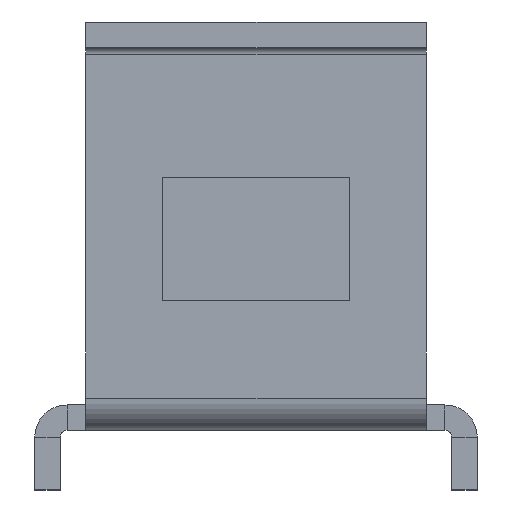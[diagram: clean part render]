
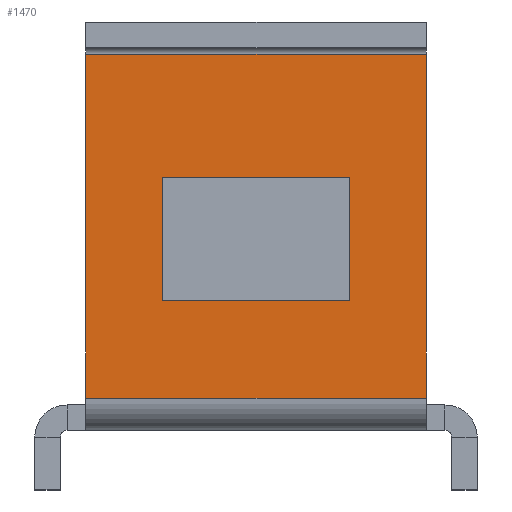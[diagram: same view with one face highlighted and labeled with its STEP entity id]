
A CAD part, left-side view. The second image highlights one B-rep face of the part: STEP entity #1470.
In plain terms, the highlighted planar face has unit normal (-1, 0, 0).
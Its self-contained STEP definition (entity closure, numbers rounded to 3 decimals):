
#22=FACE_BOUND('',#258,.T.);
#162=FACE_OUTER_BOUND('',#257,.T.);
#257=EDGE_LOOP('',(#1252,#1253,#1254,#1255));
#258=EDGE_LOOP('',(#1256,#1257,#1258,#1259));
#276=LINE('',#2047,#436);
#280=LINE('',#2055,#440);
#283=LINE('',#2061,#443);
#286=LINE('',#2066,#446);
#414=LINE('',#2401,#574);
#415=LINE('',#2403,#575);
#416=LINE('',#2405,#576);
#417=LINE('',#2406,#577);
#436=VECTOR('',#1623,14.5);
#440=VECTOR('',#1629,22.);
#443=VECTOR('',#1634,14.5);
#446=VECTOR('',#1639,22.);
#574=VECTOR('',#1981,40.);
#575=VECTOR('',#1982,40.4);
#576=VECTOR('',#1983,40.);
#577=VECTOR('',#1984,40.4);
#596=VERTEX_POINT('',#2045);
#597=VERTEX_POINT('',#2046);
#600=VERTEX_POINT('',#2054);
#602=VERTEX_POINT('',#2060);
#702=VERTEX_POINT('',#2395);
#703=VERTEX_POINT('',#2400);
#704=VERTEX_POINT('',#2402);
#705=VERTEX_POINT('',#2404);
#716=EDGE_CURVE('',#596,#597,#276,.T.);
#720=EDGE_CURVE('',#600,#596,#280,.T.);
#723=EDGE_CURVE('',#602,#600,#283,.T.);
#726=EDGE_CURVE('',#597,#602,#286,.T.);
#893=EDGE_CURVE('',#703,#702,#414,.T.);
#894=EDGE_CURVE('',#704,#703,#415,.T.);
#895=EDGE_CURVE('',#704,#705,#416,.T.);
#896=EDGE_CURVE('',#702,#705,#417,.T.);
#1252=ORIENTED_EDGE('',*,*,#893,.F.);
#1253=ORIENTED_EDGE('',*,*,#894,.F.);
#1254=ORIENTED_EDGE('',*,*,#895,.T.);
#1255=ORIENTED_EDGE('',*,*,#896,.F.);
#1256=ORIENTED_EDGE('',*,*,#716,.T.);
#1257=ORIENTED_EDGE('',*,*,#726,.T.);
#1258=ORIENTED_EDGE('',*,*,#723,.T.);
#1259=ORIENTED_EDGE('',*,*,#720,.T.);
#1380=PLANE('',#1598);
#1470=ADVANCED_FACE('',(#162,#22),#1380,.F.);
#1598=AXIS2_PLACEMENT_3D('',#2399,#1979,#1980);
#1623=DIRECTION('',(0.,0.,1.));
#1629=DIRECTION('',(0.,1.,0.));
#1634=DIRECTION('',(0.,0.,-1.));
#1639=DIRECTION('',(0.,-1.,0.));
#1979=DIRECTION('center_axis',(1.,0.,0.));
#1980=DIRECTION('ref_axis',(0.,0.,-1.));
#1981=DIRECTION('',(0.,1.,0.));
#1982=DIRECTION('',(0.,0.,-1.));
#1983=DIRECTION('',(0.,1.,0.));
#1984=DIRECTION('',(0.,0.,1.));
#2045=CARTESIAN_POINT('',(-60.,11.,-32.75));
#2046=CARTESIAN_POINT('',(-60.,11.,-18.25));
#2047=CARTESIAN_POINT('',(-60.,11.,-67.75));
#2054=CARTESIAN_POINT('',(-60.,-11.,-32.75));
#2055=CARTESIAN_POINT('',(-60.,-5.5,-32.75));
#2060=CARTESIAN_POINT('',(-60.,-11.,-18.25));
#2061=CARTESIAN_POINT('',(-60.,-11.,-60.5));
#2066=CARTESIAN_POINT('',(-60.,5.5,-18.25));
#2395=CARTESIAN_POINT('',(-60.,20.,-44.2));
#2399=CARTESIAN_POINT('Origin',(-60.,0.,
-102.75));
#2400=CARTESIAN_POINT('',(-60.,-20.,-44.2));
#2401=CARTESIAN_POINT('',(-60.,0.,-44.2));
#2402=CARTESIAN_POINT('',(-60.,-20.,-3.8));
#2403=CARTESIAN_POINT('',(-60.,-20.,-204.05));
#2404=CARTESIAN_POINT('',(-60.,20.,-3.8));
#2405=CARTESIAN_POINT('',(-60.,0.,-3.8));
#2406=CARTESIAN_POINT('',(-60.,20.,24.75));
